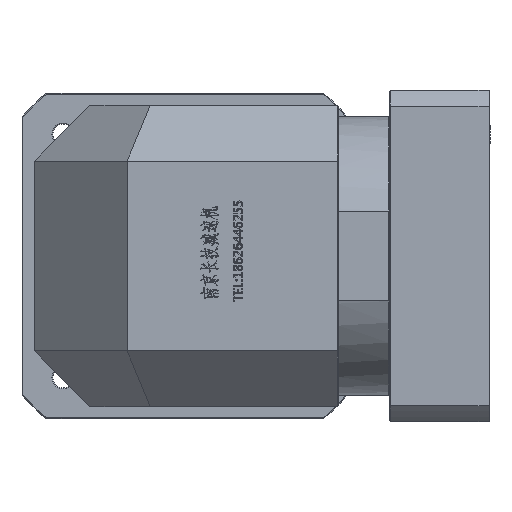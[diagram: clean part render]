
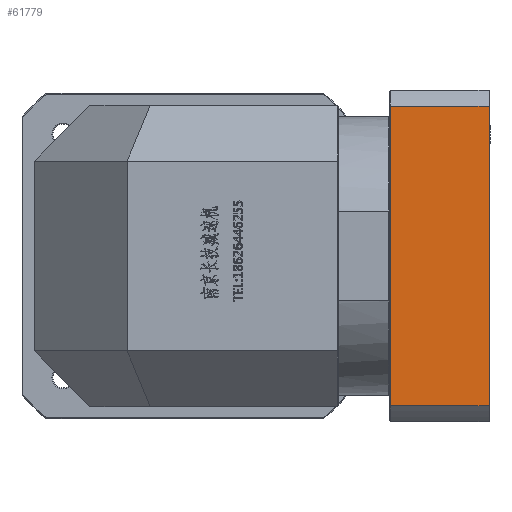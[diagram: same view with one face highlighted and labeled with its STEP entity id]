
A CAD part, left-side view. The second image highlights one B-rep face of the part: STEP entity #61779.
In plain terms, the highlighted planar face has unit normal (-1, 0, 0).
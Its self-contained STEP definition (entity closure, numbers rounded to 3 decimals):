
#11597 = VERTEX_POINT ( 'NONE', #125086 ) ;
#12359 = EDGE_CURVE ( 'NONE', #148345, #64542, #71236, .T. ) ;
#15863 = CARTESIAN_POINT ( 'NONE',  ( -107.659, -194.383, 164.77 ) ) ;
#17787 = DIRECTION ( 'NONE',  ( 0., 1., 0. ) ) ;
#20735 = LINE ( 'NONE', #67657, #135807 ) ;
#23441 = FACE_OUTER_BOUND ( 'NONE', #73261, .T. ) ;
#29494 = ORIENTED_EDGE ( 'NONE', *, *, #73724, .T. ) ;
#30814 = EDGE_CURVE ( 'NONE', #64542, #62734, #20735, .T. ) ;
#41571 = DIRECTION ( 'NONE',  ( 1., 0., 0. ) ) ;
#43417 = CARTESIAN_POINT ( 'NONE',  ( -107.659, -247.383, 164.77 ) ) ;
#44100 = EDGE_CURVE ( 'NONE', #11597, #148345, #119810, .T. ) ;
#45256 = VECTOR ( 'NONE', #147258, 1000. ) ;
#47843 = DIRECTION ( 'NONE',  ( 0., 0., -1. ) ) ;
#48972 = CARTESIAN_POINT ( 'NONE',  ( -107.659, -247.383, 325.755 ) ) ;
#49161 = VECTOR ( 'NONE', #47843, 1000. ) ;
#54247 = CARTESIAN_POINT ( 'NONE',  ( -107.659, -247.883, 325.755 ) ) ;
#61779 = ADVANCED_FACE ( 'NONE', ( #23441 ), #132516, .F. ) ;
#62628 = AXIS2_PLACEMENT_3D ( 'NONE', #88310, #41571, #17787 ) ;
#62734 = VERTEX_POINT ( 'NONE', #15863 ) ;
#64542 = VERTEX_POINT ( 'NONE', #43417 ) ;
#67657 = CARTESIAN_POINT ( 'NONE',  ( -107.659, 148.922, 164.77 ) ) ;
#67704 = ORIENTED_EDGE ( 'NONE', *, *, #30814, .F. ) ;
#71236 = LINE ( 'NONE', #101036, #45256 ) ;
#73261 = EDGE_LOOP ( 'NONE', ( #89553, #29494, #67704, #140874 ) ) ;
#73724 = EDGE_CURVE ( 'NONE', #11597, #62734, #108600, .T. ) ;
#79540 = DIRECTION ( 'NONE',  ( 0., 1., 0. ) ) ;
#86350 = VECTOR ( 'NONE', #90066, 1000. ) ;
#88310 = CARTESIAN_POINT ( 'NONE',  ( -107.659, -247.883, 156.262 ) ) ;
#89553 = ORIENTED_EDGE ( 'NONE', *, *, #44100, .F. ) ;
#90066 = DIRECTION ( 'NONE',  ( 0., -1., 0. ) ) ;
#101036 = CARTESIAN_POINT ( 'NONE',  ( -107.659, -247.383, 156.262 ) ) ;
#108600 = LINE ( 'NONE', #119971, #49161 ) ;
#119810 = LINE ( 'NONE', #54247, #86350 ) ;
#119971 = CARTESIAN_POINT ( 'NONE',  ( -107.659, -194.383, 156.262 ) ) ;
#125086 = CARTESIAN_POINT ( 'NONE',  ( -107.659, -194.383, 325.755 ) ) ;
#132516 = PLANE ( 'NONE',  #62628 ) ;
#135807 = VECTOR ( 'NONE', #79540, 1000. ) ;
#140874 = ORIENTED_EDGE ( 'NONE', *, *, #12359, .F. ) ;
#147258 = DIRECTION ( 'NONE',  ( 0., 0., -1. ) ) ;
#148345 = VERTEX_POINT ( 'NONE', #48972 ) ;
